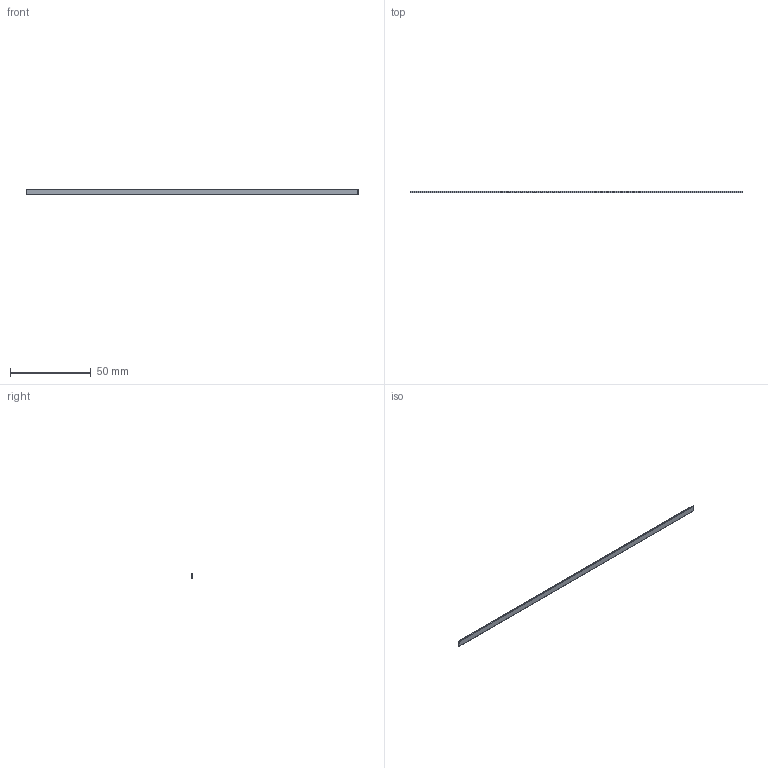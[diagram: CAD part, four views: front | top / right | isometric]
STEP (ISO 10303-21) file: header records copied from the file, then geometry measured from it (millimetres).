
FILE_DESCRIPTION (( 'STEP AP214' ), '1' );
FILE_NAME ('Posic_TPLS01.STEP', '2018-07-20T05:37:18', ( '' ), ( '' ), 'SwSTEP 2.0', 'SolidWorks 2018', '' );
FILE_SCHEMA (( 'AUTOMOTIVE_DESIGN' ));
Length unit declared in the file: millimetre
Products named in the file (1): Posic_TPLS01
Bounding box: 205 x 0.72 x 3.7 mm (x, y, z)
Volume: 533.1 mm3; surface area: 1851.7 mm2
Topology: 1 solids, 1 shells, 861 faces, 2064 edges, 1376 vertices
Faces by surface type: plane 861
Entity records: 33877 total; most frequent: CARTESIAN_POINT 4302, ORIENTED_EDGE 4128, DIRECTION 3788, VECTOR 2064, LINE 2064, EDGE_CURVE 2064, VERTEX_POINT 1376, EDGE_LOOP 1032
